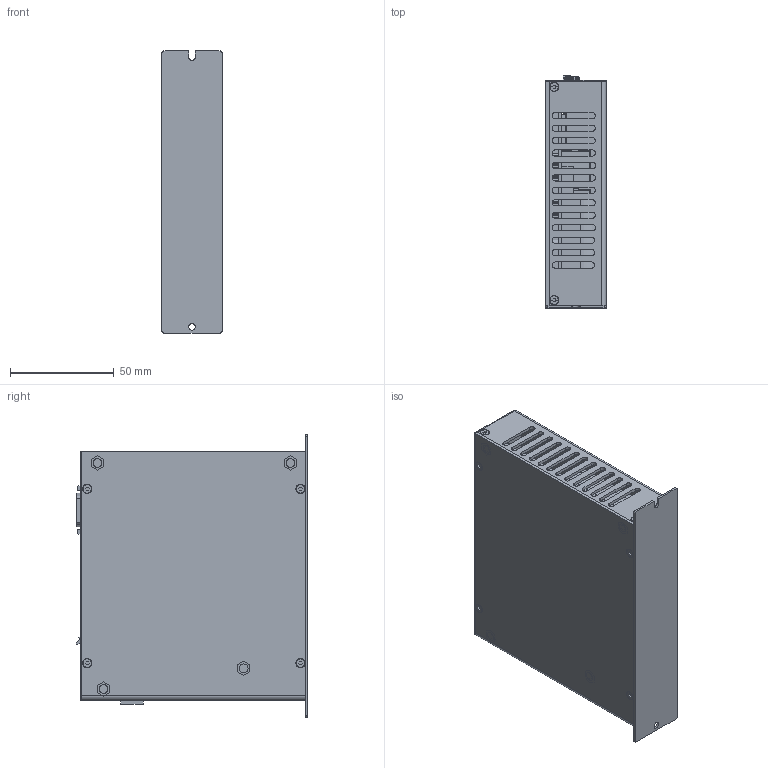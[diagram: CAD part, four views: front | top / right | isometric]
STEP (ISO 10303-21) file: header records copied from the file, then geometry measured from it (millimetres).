
FILE_DESCRIPTION((''),'2;1');
FILE_NAME('ASM0001_ASM','2019-08-02T',('PCBD'),(''),'PRO/ENGINEER BY PARAMETRIC TECHNOLOGY CORPORATION, 2010280','PRO/ENGINEER BY PARAMETRIC TECHNOLOGY CORPORATION, 2010280','');
FILE_SCHEMA(('CONFIG_CONTROL_DESIGN'));
Length unit declared in the file: millimetre
Products named in the file (18): FACING; POWER_COMMUN_BD; PS2; SWITCH; SCSI_20PIN; MINISD; MICROUSB; MICROUSB_TYPEC; ENG_CD_1-2301994-0_B2; POWER_COMMUN_BD_ASM; OPTICALTRANS; LEFTPLUSTOP; YBZN_M3X5-5_2_1; LEFTPLUSTOP_ASM; RIGHTPLUSBOTTOM; BACKING; M2_6_CONE; ASM0001_ASM
Assembly tree (32 placements, depth 3):
  ASM0001_ASM
    FACING
    POWER_COMMUN_BD_ASM
      POWER_COMMUN_BD
      PS2
      SWITCH
      SCSI_20PIN
      MINISD
      MICROUSB
      MICROUSB_TYPEC
      ENG_CD_1-2301994-0_B2  x2
    OPTICALTRANS  x3
    LEFTPLUSTOP_ASM
      LEFTPLUSTOP
      YBZN_M3X5-5_2_1  x4
    RIGHTPLUSBOTTOM
    BACKING
    M2_6_CONE  x10
Bounding box: 29 x 111.82 x 136 mm (x, y, z)
Volume: 145736.4 mm3; surface area: 121823.6 mm2
Topology: 30 solids, 30 shells, 1028 faces, 2540 edges, 1648 vertices
Faces by surface type: plane 628, cylinder 316, cone 72, torus 6, sphere 6
Entity records: 24090 total; most frequent: DIRECTION 4186, CARTESIAN_POINT 4118, ORIENTED_EDGE 3920, EDGE_CURVE 1960, VECTOR 1416, LINE 1416, AXIS2_PLACEMENT_3D 1385, VERTEX_POINT 1288
